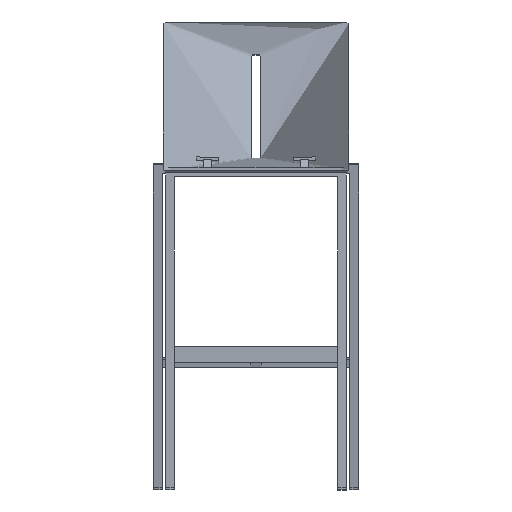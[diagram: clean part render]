
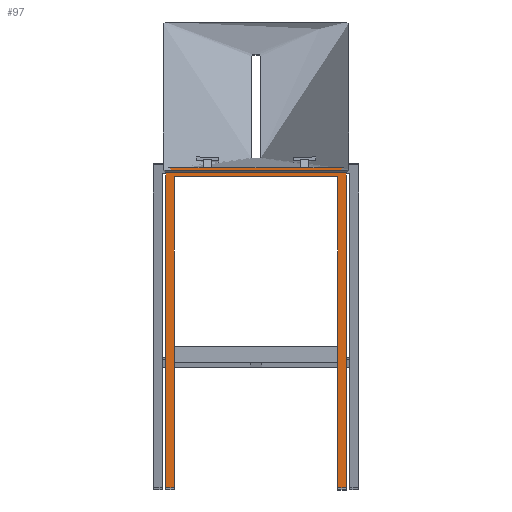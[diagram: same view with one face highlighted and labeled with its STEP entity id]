
A CAD part, front view. The second image highlights one B-rep face of the part: STEP entity #97.
In plain terms, the highlighted planar face has unit normal (0, -1, 0).
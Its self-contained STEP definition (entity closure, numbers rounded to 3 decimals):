
#97=ADVANCED_FACE('',(#196),#1519,.T.);
#196=FACE_OUTER_BOUND('',#292,.T.);
#292=EDGE_LOOP('',(#453,#454,#455,#456,#457,#458,#459,#460,#461,#462,#463,
#464));
#453=ORIENTED_EDGE('',*,*,#878,.F.);
#454=ORIENTED_EDGE('',*,*,#882,.F.);
#455=ORIENTED_EDGE('',*,*,#892,.T.);
#456=ORIENTED_EDGE('',*,*,#905,.F.);
#457=ORIENTED_EDGE('',*,*,#899,.T.);
#458=ORIENTED_EDGE('',*,*,#845,.F.);
#459=ORIENTED_EDGE('',*,*,#846,.F.);
#460=ORIENTED_EDGE('',*,*,#847,.T.);
#461=ORIENTED_EDGE('',*,*,#848,.F.);
#462=ORIENTED_EDGE('',*,*,#849,.F.);
#463=ORIENTED_EDGE('',*,*,#850,.T.);
#464=ORIENTED_EDGE('',*,*,#906,.F.);
#845=EDGE_CURVE('',#1338,#1337,#1102,.T.);
#846=EDGE_CURVE('',#1339,#1338,#1103,.T.);
#847=EDGE_CURVE('',#1339,#1340,#1104,.T.);
#848=EDGE_CURVE('',#1341,#1340,#1105,.T.);
#849=EDGE_CURVE('',#1342,#1341,#1106,.T.);
#850=EDGE_CURVE('',#1342,#1371,#1107,.T.);
#878=EDGE_CURVE('',#1344,#1343,#1135,.T.);
#882=EDGE_CURVE('',#1345,#1344,#1139,.T.);
#892=EDGE_CURVE('',#1345,#1346,#1149,.T.);
#899=EDGE_CURVE('',#1369,#1337,#1156,.T.);
#905=EDGE_CURVE('',#1369,#1346,#1162,.T.);
#906=EDGE_CURVE('',#1343,#1371,#1163,.T.);
#1102=B_SPLINE_CURVE_WITH_KNOTS('',1,(#1966,#1967),.UNSPECIFIED.,.F.,.F.,
(2,2),(0.,1.),.UNSPECIFIED.);
#1103=B_SPLINE_CURVE_WITH_KNOTS('',1,(#1968,#1969),.UNSPECIFIED.,.F.,.F.,
(2,2),(0.,1.),.UNSPECIFIED.);
#1104=B_SPLINE_CURVE_WITH_KNOTS('',1,(#1970,#1971),.UNSPECIFIED.,.F.,.F.,
(2,2),(0.,1.),.UNSPECIFIED.);
#1105=B_SPLINE_CURVE_WITH_KNOTS('',1,(#1972,#1973),.UNSPECIFIED.,.F.,.F.,
(2,2),(0.,1.),.UNSPECIFIED.);
#1106=B_SPLINE_CURVE_WITH_KNOTS('',1,(#1974,#1975),.UNSPECIFIED.,.F.,.F.,
(2,2),(0.,1.),.UNSPECIFIED.);
#1107=B_SPLINE_CURVE_WITH_KNOTS('',1,(#1976,#1977),.UNSPECIFIED.,.F.,.F.,
(2,2),(0.,0.971),.UNSPECIFIED.);
#1135=B_SPLINE_CURVE_WITH_KNOTS('',1,(#2032,#2033),.UNSPECIFIED.,.F.,.F.,
(2,2),(0.,20.),.UNSPECIFIED.);
#1139=B_SPLINE_CURVE_WITH_KNOTS('',1,(#2040,#2041),.UNSPECIFIED.,.F.,.F.,
(2,2),(-271.565,0.),.UNSPECIFIED.);
#1149=B_SPLINE_CURVE_WITH_KNOTS('',1,(#2060,#2061),.UNSPECIFIED.,.F.,.F.,
(2,2),(0.,20.),.UNSPECIFIED.);
#1156=B_SPLINE_CURVE_WITH_KNOTS('',1,(#2074,#2075),.UNSPECIFIED.,.F.,.F.,
(2,2),(0.029,1.),.UNSPECIFIED.);
#1162=B_SPLINE_CURVE_WITH_KNOTS('',1,(#2086,#2087),.UNSPECIFIED.,.F.,.F.,
(2,2),(-33.928,2.286),.UNSPECIFIED.);
#1163=B_SPLINE_CURVE_WITH_KNOTS('',1,(#2088,#2089),.UNSPECIFIED.,.F.,.F.,
(2,2),(-27.856,8.358),.UNSPECIFIED.);
#1337=VERTEX_POINT('',#1890);
#1338=VERTEX_POINT('',#1891);
#1339=VERTEX_POINT('',#1892);
#1340=VERTEX_POINT('',#1893);
#1341=VERTEX_POINT('',#1894);
#1342=VERTEX_POINT('',#1895);
#1343=VERTEX_POINT('',#1896);
#1344=VERTEX_POINT('',#1897);
#1345=VERTEX_POINT('',#1898);
#1346=VERTEX_POINT('',#1899);
#1369=VERTEX_POINT('',#1922);
#1371=VERTEX_POINT('',#1924);
#1519=PLANE('',#1677);
#1677=AXIS2_PLACEMENT_3D('',#1830,#1752,$);
#1752=DIRECTION('',(0.,-1.,0.));
#1830=CARTESIAN_POINT('',(205.,-219.808,5.408));
#1890=CARTESIAN_POINT('',(-205.,-219.808,5.408));
#1891=CARTESIAN_POINT('',(-185.,-219.808,5.408));
#1892=CARTESIAN_POINT('',(-185.,-219.808,710.));
#1893=CARTESIAN_POINT('',(185.,-219.808,710.));
#1894=CARTESIAN_POINT('',(185.,-219.808,5.408));
#1895=CARTESIAN_POINT('',(205.,-219.808,5.408));
#1896=CARTESIAN_POINT('',(120.,-219.808,730.));
#1897=CARTESIAN_POINT('',(100.,-219.808,730.));
#1898=CARTESIAN_POINT('',(-100.,-219.808,730.));
#1899=CARTESIAN_POINT('',(-120.,-219.808,730.));
#1922=CARTESIAN_POINT('',(-205.,-219.808,730.));
#1924=CARTESIAN_POINT('',(205.,-219.808,730.));
#1966=CARTESIAN_POINT('',(-185.,-219.808,5.408));
#1967=CARTESIAN_POINT('',(-205.,-219.808,5.408));
#1968=CARTESIAN_POINT('',(-185.,-219.808,710.));
#1969=CARTESIAN_POINT('',(-185.,-219.808,5.408));
#1970=CARTESIAN_POINT('',(-185.,-219.808,710.));
#1971=CARTESIAN_POINT('',(185.,-219.808,710.));
#1972=CARTESIAN_POINT('',(185.,-219.808,5.408));
#1973=CARTESIAN_POINT('',(185.,-219.808,710.));
#1974=CARTESIAN_POINT('',(205.,-219.808,5.408));
#1975=CARTESIAN_POINT('',(185.,-219.808,5.408));
#1976=CARTESIAN_POINT('',(205.,-219.808,5.408));
#1977=CARTESIAN_POINT('',(205.,-219.808,730.));
#2032=CARTESIAN_POINT('',(100.,-219.808,730.));
#2033=CARTESIAN_POINT('',(120.,-219.808,730.));
#2040=CARTESIAN_POINT('',(-100.,-219.808,730.));
#2041=CARTESIAN_POINT('',(100.,-219.808,730.));
#2060=CARTESIAN_POINT('',(-100.,-219.808,730.));
#2061=CARTESIAN_POINT('',(-120.,-219.808,730.));
#2074=CARTESIAN_POINT('',(-205.,-219.808,730.));
#2075=CARTESIAN_POINT('',(-205.,-219.808,5.408));
#2086=CARTESIAN_POINT('',(-205.,-219.808,730.));
#2087=CARTESIAN_POINT('',(-120.,-219.808,730.));
#2088=CARTESIAN_POINT('',(120.,-219.808,730.));
#2089=CARTESIAN_POINT('',(205.,-219.808,730.));
